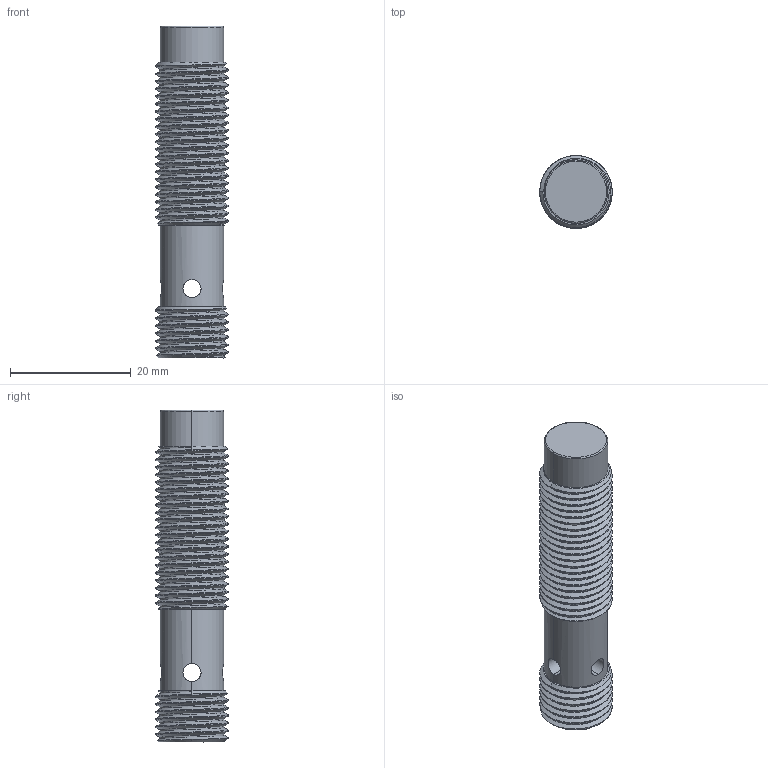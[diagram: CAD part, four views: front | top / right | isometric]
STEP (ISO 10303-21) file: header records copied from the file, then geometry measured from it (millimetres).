
FILE_DESCRIPTION (( 'STEP AP214' ), '1' );
FILE_NAME ('1.BIS4N26.STEP', '2024-11-11T08:26:59', ( '' ), ( '' ), 'SwSTEP 2.0', 'SolidWorks 2022', '' );
FILE_SCHEMA (( 'AUTOMOTIVE_DESIGN' ));
Length unit declared in the file: millimetre
Products named in the file (1): 1.BIS4N26
Bounding box: 12 x 12 x 55 mm (x, y, z)
Volume: 4619.5 mm3; surface area: 3239 mm2
Topology: 1 solids, 1 shells, 94 faces, 256 edges, 164 vertices
Faces by surface type: cylinder 70, plane 10, cone 6, bspline 6, torus 2
Entity records: 13968 total; most frequent: CARTESIAN_POINT 11837, ORIENTED_EDGE 512, DIRECTION 309, EDGE_CURVE 256, VERTEX_POINT 164, AXIS2_PLACEMENT_3D 115, EDGE_LOOP 100, ADVANCED_FACE 94
